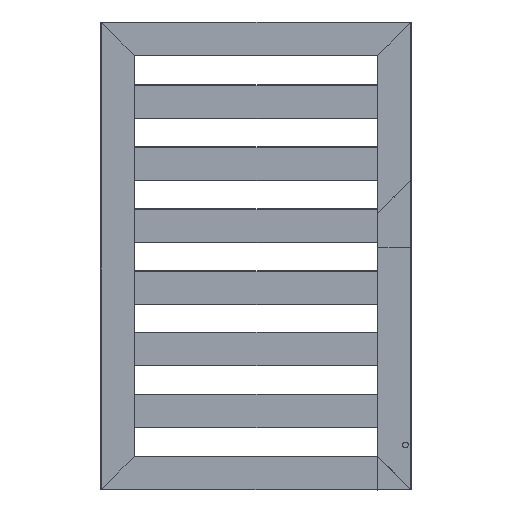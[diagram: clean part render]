
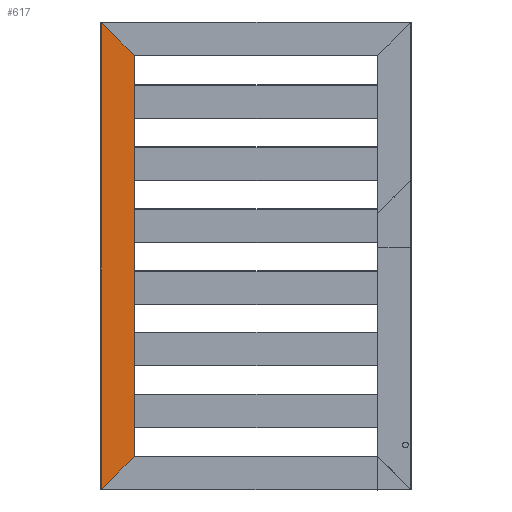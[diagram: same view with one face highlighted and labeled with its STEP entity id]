
A CAD part, top view. The second image highlights one B-rep face of the part: STEP entity #617.
In plain terms, the highlighted planar face has unit normal (0, 0, 1) as drawn and (0, 0, -1) by its records, which use the part's own axes.
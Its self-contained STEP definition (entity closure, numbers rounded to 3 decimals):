
#617 = ADVANCED_FACE( '', ( #1380 ), #1381, .T. );
#1380 = FACE_OUTER_BOUND( '', #2445, .T. );
#1381 = PLANE( '', #2446 );
#2445 = EDGE_LOOP( '', ( #3968, #3969, #3970, #3971 ) );
#2446 = AXIS2_PLACEMENT_3D( '', #3972, #3973, #3974 );
#3968 = ORIENTED_EDGE( '', *, *, #5920, .F. );
#3969 = ORIENTED_EDGE( '', *, *, #5921, .T. );
#3970 = ORIENTED_EDGE( '', *, *, #5922, .T. );
#3971 = ORIENTED_EDGE( '', *, *, #5640, .F. );
#3972 = CARTESIAN_POINT( '', ( 1., 1160., 0. ) );
#3973 = DIRECTION( '', ( 0., 0., -1. ) );
#3974 = DIRECTION( '', ( -1., 0., 0. ) );
#5640 = EDGE_CURVE( '', #6635, #6637, #6638, .T. );
#5920 = EDGE_CURVE( '', #7102, #6635, #7103, .T. );
#5921 = EDGE_CURVE( '', #7102, #7104, #7105, .T. );
#5922 = EDGE_CURVE( '', #7104, #6637, #7106, .T. );
#6635 = VERTEX_POINT( '', #8059 );
#6637 = VERTEX_POINT( '', #8061 );
#6638 = LINE( '', #8062, #8063 );
#7102 = VERTEX_POINT( '', #8779 );
#7103 = LINE( '', #8780, #8781 );
#7104 = VERTEX_POINT( '', #8782 );
#7105 = LINE( '', #8783, #8784 );
#7106 = LINE( '', #8785, #8786 );
#8059 = CARTESIAN_POINT( '', ( 1., 59., 0. ) );
#8061 = CARTESIAN_POINT( '', ( 59., 1., 0. ) );
#8062 = CARTESIAN_POINT( '', ( -549.5, 609.5, 0. ) );
#8063 = VECTOR( '', #10080, 1000. );
#8779 = CARTESIAN_POINT( '', ( 1., 771., 0. ) );
#8780 = CARTESIAN_POINT( '', ( 1., 1160., 0. ) );
#8781 = VECTOR( '', #10467, 1000. );
#8782 = CARTESIAN_POINT( '', ( 59., 829., 0. ) );
#8783 = CARTESIAN_POINT( '', ( 195.5, 965.5, 0. ) );
#8784 = VECTOR( '', #10468, 1000. );
#8785 = CARTESIAN_POINT( '', ( 59., 1160., 0. ) );
#8786 = VECTOR( '', #10469, 1000. );
#10080 = DIRECTION( '', ( 0.707, -0.707, 0. ) );
#10467 = DIRECTION( '', ( 0., -1., 0. ) );
#10468 = DIRECTION( '', ( 0.707, 0.707, 0. ) );
#10469 = DIRECTION( '', ( 0., -1., 0. ) );
